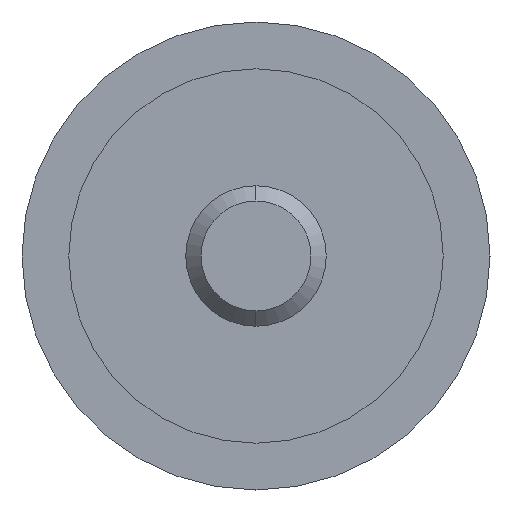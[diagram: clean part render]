
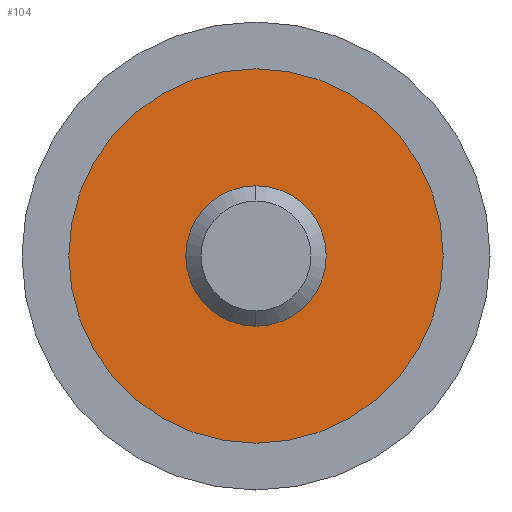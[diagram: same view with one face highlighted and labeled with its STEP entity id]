
A CAD part, left-side view. The second image highlights one B-rep face of the part: STEP entity #104.
In plain terms, the highlighted planar face has unit normal (-1, 0, 0).
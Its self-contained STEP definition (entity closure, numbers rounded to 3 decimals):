
#3 = AXIS2_PLACEMENT_3D ( 'NONE', #411, #204, #617 ) ;
#49 = CARTESIAN_POINT ( 'NONE',  ( -14.99, 0., 0. ) ) ;
#65 = CIRCLE ( 'NONE', #466, 8. ) ;
#84 = DIRECTION ( 'NONE',  ( 0., 0., -1. ) ) ;
#91 = CARTESIAN_POINT ( 'NONE',  ( -14.99, 0., -8. ) ) ;
#95 = EDGE_LOOP ( 'NONE', ( #120, #303 ) ) ;
#104 = ADVANCED_FACE ( 'NONE', ( #445, #230 ), #281, .F. ) ;
#120 = ORIENTED_EDGE ( 'NONE', *, *, #623, .T. ) ;
#132 = CARTESIAN_POINT ( 'NONE',  ( -14.99, 0., 0. ) ) ;
#137 = DIRECTION ( 'NONE',  ( -1., 0., 0. ) ) ;
#160 = DIRECTION ( 'NONE',  ( -1., 0., 0. ) ) ;
#172 = AXIS2_PLACEMENT_3D ( 'NONE', #49, #160, #272 ) ;
#174 = CIRCLE ( 'NONE', #3, 8. ) ;
#204 = DIRECTION ( 'NONE',  ( -1., 0., 0. ) ) ;
#224 = VERTEX_POINT ( 'NONE', #605 ) ;
#230 = FACE_BOUND ( 'NONE', #416, .T. ) ;
#241 = ORIENTED_EDGE ( 'NONE', *, *, #323, .F. ) ;
#243 = CIRCLE ( 'NONE', #510, 3. ) ;
#272 = DIRECTION ( 'NONE',  ( 0., 0., -1. ) ) ;
#281 = PLANE ( 'NONE',  #488 ) ;
#303 = ORIENTED_EDGE ( 'NONE', *, *, #506, .T. ) ;
#304 = CARTESIAN_POINT ( 'NONE',  ( -14.99, 0., 0. ) ) ;
#323 = EDGE_CURVE ( 'NONE', #650, #602, #441, .T. ) ;
#334 = DIRECTION ( 'NONE',  ( 0., 0., -1. ) ) ;
#389 = CARTESIAN_POINT ( 'NONE',  ( -14.99, 8., 0. ) ) ;
#411 = CARTESIAN_POINT ( 'NONE',  ( -14.99, 0., 0. ) ) ;
#416 = EDGE_LOOP ( 'NONE', ( #658, #241 ) ) ;
#439 = DIRECTION ( 'NONE',  ( 1., 0., 0. ) ) ;
#441 = CIRCLE ( 'NONE', #172, 3. ) ;
#445 = FACE_OUTER_BOUND ( 'NONE', #95, .T. ) ;
#456 = DIRECTION ( 'NONE',  ( 0., 0., 1. ) ) ;
#466 = AXIS2_PLACEMENT_3D ( 'NONE', #132, #137, #456 ) ;
#488 = AXIS2_PLACEMENT_3D ( 'NONE', #389, #439, #334 ) ;
#505 = DIRECTION ( 'NONE',  ( -1., 0., 0. ) ) ;
#506 = EDGE_CURVE ( 'NONE', #577, #224, #65, .T. ) ;
#510 = AXIS2_PLACEMENT_3D ( 'NONE', #304, #505, #84 ) ;
#515 = CARTESIAN_POINT ( 'NONE',  ( -14.99, 0., -3. ) ) ;
#554 = CARTESIAN_POINT ( 'NONE',  ( -14.99, 0., 3. ) ) ;
#565 = EDGE_CURVE ( 'NONE', #602, #650, #243, .T. ) ;
#577 = VERTEX_POINT ( 'NONE', #91 ) ;
#602 = VERTEX_POINT ( 'NONE', #554 ) ;
#605 = CARTESIAN_POINT ( 'NONE',  ( -14.99, 0., 8. ) ) ;
#617 = DIRECTION ( 'NONE',  ( 0., 0., 1. ) ) ;
#623 = EDGE_CURVE ( 'NONE', #224, #577, #174, .T. ) ;
#650 = VERTEX_POINT ( 'NONE', #515 ) ;
#658 = ORIENTED_EDGE ( 'NONE', *, *, #565, .F. ) ;
